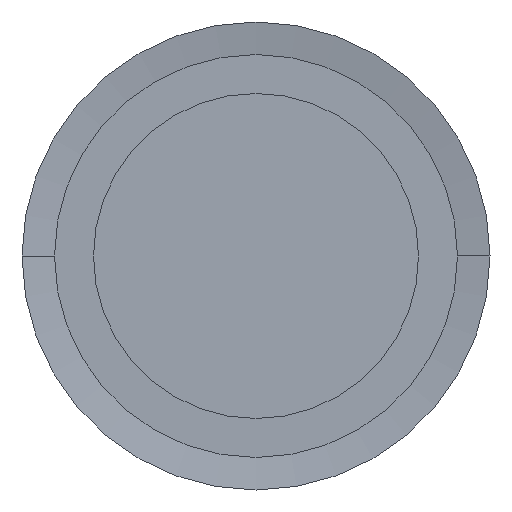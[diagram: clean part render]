
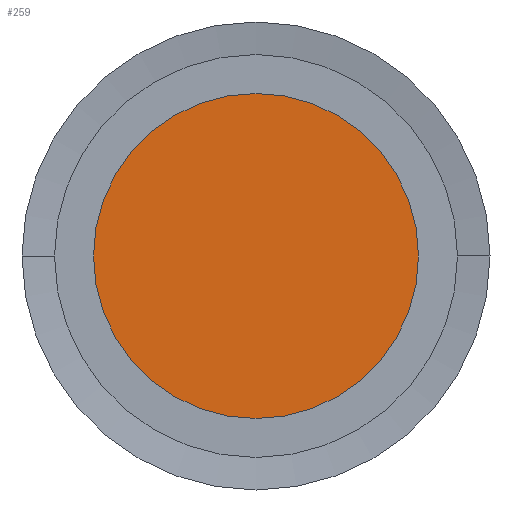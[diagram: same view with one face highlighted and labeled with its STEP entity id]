
A CAD part, left-side view. The second image highlights one B-rep face of the part: STEP entity #259.
In plain terms, the highlighted planar face has unit normal (-1, 0, 0).
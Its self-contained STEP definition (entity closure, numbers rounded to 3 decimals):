
#259 = ADVANCED_FACE( '', ( #634 ), #635, .T. );
#634 = FACE_OUTER_BOUND( '', #1009, .T. );
#635 = PLANE( '', #1010 );
#1009 = EDGE_LOOP( '', ( #2613, #2614 ) );
#1010 = AXIS2_PLACEMENT_3D( '', #2615, #2616, #2617 );
#2613 = ORIENTED_EDGE( '', *, *, #2621, .T. );
#2614 = ORIENTED_EDGE( '', *, *, #3143, .T. );
#2615 = CARTESIAN_POINT( '', ( 0., 6.25, 0. ) );
#2616 = DIRECTION( '', ( -1., 0., 0. ) );
#2617 = DIRECTION( '', ( 0., 1., 0. ) );
#2621 = EDGE_CURVE( '', #3145, #3149, #3151, .T. );
#3143 = EDGE_CURVE( '', #3149, #3145, #4017, .T. );
#3145 = VERTEX_POINT( '', #4019 );
#3149 = VERTEX_POINT( '', #4024 );
#3151 = CIRCLE( '', #4027, 12.5 );
#4017 = CIRCLE( '', #5189, 12.5 );
#4019 = CARTESIAN_POINT( '', ( 0., 12.5, 0. ) );
#4024 = CARTESIAN_POINT( '', ( 0., -12.5, 0. ) );
#4027 = AXIS2_PLACEMENT_3D( '', #5195, #5196, #5197 );
#5189 = AXIS2_PLACEMENT_3D( '', #6169, #6170, #6171 );
#5195 = CARTESIAN_POINT( '', ( 0., 0., 0. ) );
#5196 = DIRECTION( '', ( -1., 0., 0. ) );
#5197 = DIRECTION( '', ( 0., 1., 0. ) );
#6169 = CARTESIAN_POINT( '', ( 0., 0., 0. ) );
#6170 = DIRECTION( '', ( -1., 0., 0. ) );
#6171 = DIRECTION( '', ( 0., 1., 0. ) );
